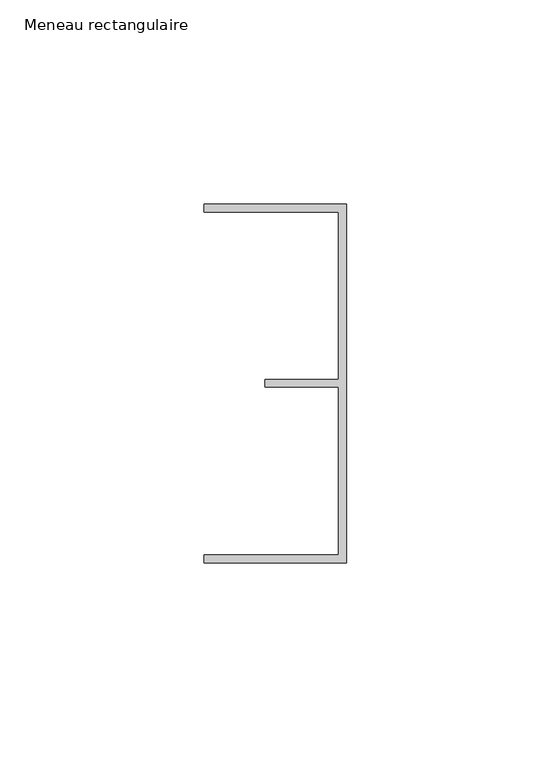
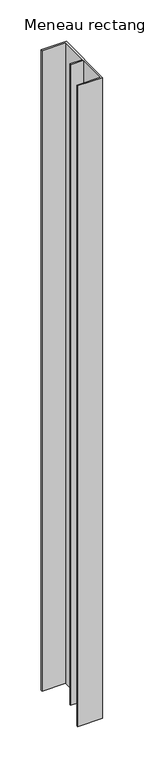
"""IFC4 building model written with IfcOpenShell, lengths in millimetres: member geometry, Meneau rectangulaire : LISSERIE_PLAFOND_COIFFANTE 94-KLP00-P80-SD20ALU."""

from ifc_helpers import new_model, si_unit, frame, origin, place, context, project, spatial, polyline, outline, extrude, source, transform, mapped, element, save


def meneau_rectangulaire_783a4c04(model_context):
    return source(origin(), model_context, "Body", "SweptSolid", [
        extrude(outline(polyline([(0.0, 44.0), (0.0, -44.0), (-35.0, -44.0), (-35.0, -42.0), (-2.0, -42.0), (-2.0, -0.9316478), (-20.0, -0.9316478), (-20.0, 0.9316478), (-2.0, 0.9316478), (-2.0, 42.0), (-35.0, 42.0), (-35.0, 44.0), (0.0, 44.0)])), frame((0.0, 0.0, -944.3), z_axis=(0.0, 0.0, 1.0), x_axis=(1.0, 0.0, 0.0)), (0.0, 0.0, 1.0), 944.3),
    ])


if __name__ == "__main__":
    model = new_model("IFC4")
    model_context = context("Model", 3, world=origin())
    ifc_project = project(units=[si_unit("LENGTHUNIT", "METRE", prefix="MILLI")], contexts=[model_context])
    site = spatial("IfcSite", under=ifc_project)
    building = spatial("IfcBuilding", under=site)
    placement = place(None, origin())
    meneau_rectangulaire_shape = meneau_rectangulaire_783a4c04(model_context)
    element("IfcMember", 1, ObjectType="Meneau rectangulaire : LISSERIE_PLAFOND_COIFFANTE 94-KLP00-P80-SD20ALU", at=placement, inside=building, context=model_context, shape_type="MappedRepresentation", body=[
        mapped(meneau_rectangulaire_shape, transform((0.0, 0.0, 0.0), x_axis=(1.0, 0.0, 0.0), y_axis=(0.0, 1.0, 0.0), z_axis=(0.0, 0.0, 1.0))),
    ])
    save(model, "model.ifc")
